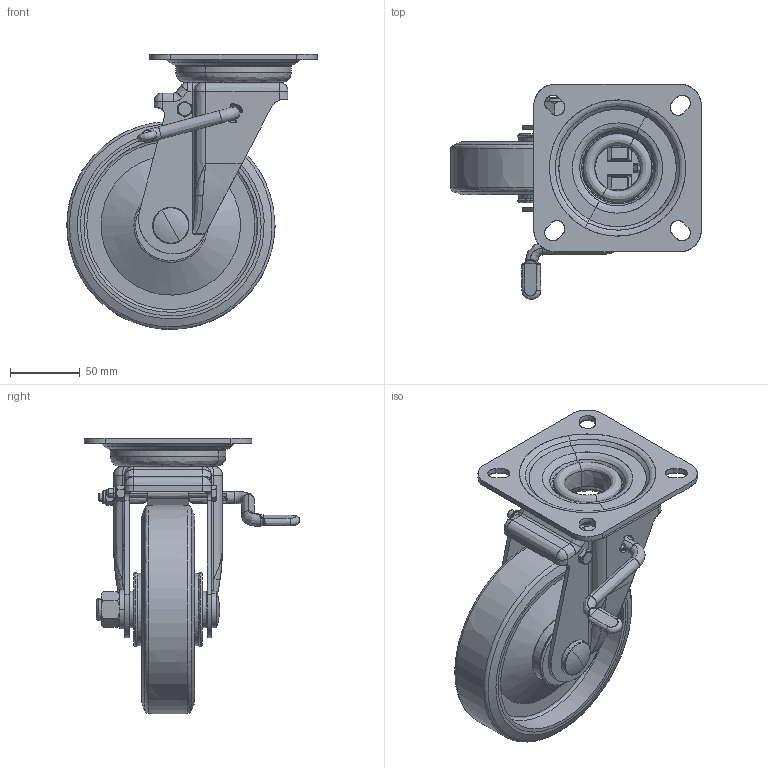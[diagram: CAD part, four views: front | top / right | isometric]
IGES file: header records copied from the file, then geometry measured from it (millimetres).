
Start section: JAMA-IS VERSION  1.0
Global section: file name: C:\CAM-TOOL data\ToolsFile\INOAC車輪\12月\P-150WJS\P-150WJS-IGS.igs; native system: CAM-TOOL; preprocessor: C3out Version 11.1.1.50212 (2015/02/12); author: NONE; organization: NONE; date: 221224.223143; units: millimetre
Bounding box: 179.61 x 154.32 x 197.96 mm (x, y, z)
Surface area: 284420.4 mm2 (no closed solid volume)
Topology: 0 solids, 0 shells, 975 faces, 21768 edges, 22364 vertices
Faces by surface type: bspline 975
